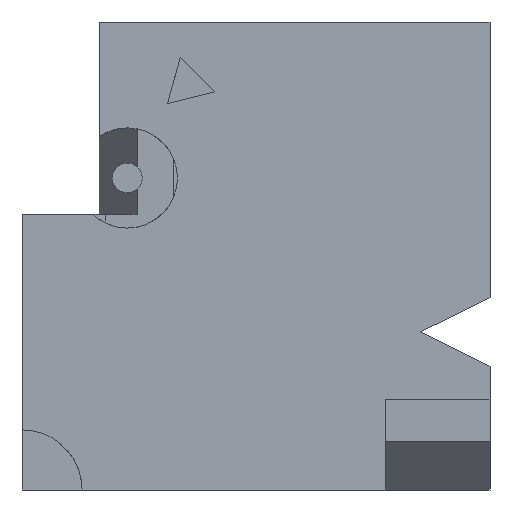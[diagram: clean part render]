
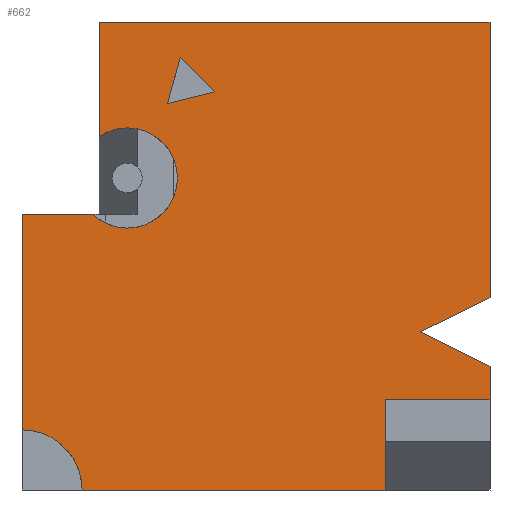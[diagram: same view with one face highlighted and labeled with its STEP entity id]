
A CAD part, front view. The second image highlights one B-rep face of the part: STEP entity #662.
In plain terms, the highlighted planar face has unit normal (0, -1, 0).
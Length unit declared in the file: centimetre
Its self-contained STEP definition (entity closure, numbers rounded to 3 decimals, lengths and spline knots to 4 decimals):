
#10 = EDGE_CURVE ( 'NONE', #913, #912, #1384, .T. ) ;
#16 = DIRECTION ( 'NONE',  ( 0., -1., 0. ) ) ;
#24 = VERTEX_POINT ( 'NONE', #792 ) ;
#25 = LINE ( 'NONE', #1326, #270 ) ;
#33 = DIRECTION ( 'NONE',  ( 0., 0., -1. ) ) ;
#64 = VERTEX_POINT ( 'NONE', #1274 ) ;
#67 = LINE ( 'NONE', #555, #806 ) ;
#70 = EDGE_CURVE ( 'NONE', #1307, #1272, #284, .T. ) ;
#75 = VECTOR ( 'NONE', #1331, 100. ) ;
#88 = ORIENTED_EDGE ( 'NONE', *, *, #1002, .F. ) ;
#92 = ORIENTED_EDGE ( 'NONE', *, *, #439, .F. ) ;
#98 = DIRECTION ( 'NONE',  ( -0.897, 0., 0.442 ) ) ;
#100 = ORIENTED_EDGE ( 'NONE', *, *, #1257, .F. ) ;
#108 = CARTESIAN_POINT ( 'NONE',  ( 151.3793, 0., 588.9629 ) ) ;
#122 = CARTESIAN_POINT ( 'NONE',  ( 1000., 0., 1000. ) ) ;
#141 = VECTOR ( 'NONE', #301, 100. ) ;
#146 = DIRECTION ( 'NONE',  ( -0.266, 0., -0.964 ) ) ;
#170 = EDGE_CURVE ( 'NONE', #294, #957, #1393, .T. ) ;
#176 = CARTESIAN_POINT ( 'NONE',  ( 225.0093, 0., 666.7254 ) ) ;
#187 = LINE ( 'NONE', #1119, #141 ) ;
#200 = CIRCLE ( 'NONE', #922, 107.0905 ) ;
#208 = CARTESIAN_POINT ( 'NONE',  ( 0., 0., 588.9629 ) ) ;
#221 = AXIS2_PLACEMENT_3D ( 'NONE', #1183, #16, #490 ) ;
#224 = DIRECTION ( 'NONE',  ( 0., 0., 1. ) ) ;
#247 = VECTOR ( 'NONE', #356, 100. ) ;
#250 = CIRCLE ( 'NONE', #1397, 107.0905 ) ;
#259 = CARTESIAN_POINT ( 'NONE',  ( 164.5453, 0., 588.9629 ) ) ;
#262 = CARTESIAN_POINT ( 'NONE',  ( 164.5453, 0., 588.9629 ) ) ;
#264 = CARTESIAN_POINT ( 'NONE',  ( 164.5453, 0., 1000. ) ) ;
#270 = VECTOR ( 'NONE', #279, 100. ) ;
#279 = DIRECTION ( 'NONE',  ( 0., 0., -1. ) ) ;
#284 = LINE ( 'NONE', #483, #1177 ) ;
#294 = VERTEX_POINT ( 'NONE', #1353 ) ;
#297 = DIRECTION ( 'NONE',  ( -0.707, 0., 0.707 ) ) ;
#301 = DIRECTION ( 'NONE',  ( 0.897, 0., 0.442 ) ) ;
#313 = CARTESIAN_POINT ( 'NONE',  ( 775.7692, 0., 192.9399 ) ) ;
#334 = CARTESIAN_POINT ( 'NONE',  ( 1000., 0., 1000. ) ) ;
#336 = DIRECTION ( 'NONE',  ( 0., -1., 0. ) ) ;
#352 = VERTEX_POINT ( 'NONE', #533 ) ;
#356 = DIRECTION ( 'NONE',  ( 0., 0., -1. ) ) ;
#372 = CIRCLE ( 'NONE', #570, 107.0905 ) ;
#395 = LINE ( 'NONE', #262, #1125 ) ;
#407 = CARTESIAN_POINT ( 'NONE',  ( 0., 0., 1000. ) ) ;
#431 = EDGE_CURVE ( 'NONE', #545, #24, #1400, .T. ) ;
#432 = ORIENTED_EDGE ( 'NONE', *, *, #1303, .T. ) ;
#437 = ORIENTED_EDGE ( 'NONE', *, *, #804, .T. ) ;
#439 = EDGE_CURVE ( 'NONE', #64, #537, #509, .T. ) ;
#462 = DIRECTION ( 'NONE',  ( 0., 0., -1. ) ) ;
#474 = CARTESIAN_POINT ( 'NONE',  ( 225.0093, 0., 666.7254 ) ) ;
#480 = CARTESIAN_POINT ( 'NONE',  ( 1000., 0., 410.8596 ) ) ;
#481 = ORIENTED_EDGE ( 'NONE', *, *, #431, .F. ) ;
#483 = CARTESIAN_POINT ( 'NONE',  ( 775.7692, 0., 0. ) ) ;
#490 = DIRECTION ( 'NONE',  ( 0., 0., -1. ) ) ;
#509 = LINE ( 'NONE', #259, #75 ) ;
#533 = CARTESIAN_POINT ( 'NONE',  ( 411.46, 0., 850.7536 ) ) ;
#535 = FACE_BOUND ( 'NONE', #1086, .T. ) ;
#537 = VERTEX_POINT ( 'NONE', #264 ) ;
#545 = VERTEX_POINT ( 'NONE', #1194 ) ;
#555 = CARTESIAN_POINT ( 'NONE',  ( 0., 0., 0. ) ) ;
#559 = EDGE_CURVE ( 'NONE', #1000, #912, #187, .T. ) ;
#570 = AXIS2_PLACEMENT_3D ( 'NONE', #474, #802, #1424 ) ;
#587 = ORIENTED_EDGE ( 'NONE', *, *, #787, .F. ) ;
#591 = ORIENTED_EDGE ( 'NONE', *, *, #1249, .T. ) ;
#608 = VECTOR ( 'NONE', #146, 100. ) ;
#613 = VERTEX_POINT ( 'NONE', #1344 ) ;
#618 = DIRECTION ( 'NONE',  ( 1., 0., 0. ) ) ;
#648 = DIRECTION ( 'NONE',  ( -1., 0., 0. ) ) ;
#662 = ADVANCED_FACE ( 'NONE', ( #535, #1237 ), #1004, .F. ) ;
#663 = CARTESIAN_POINT ( 'NONE',  ( 0., 0., 1000. ) ) ;
#681 = LINE ( 'NONE', #1155, #809 ) ;
#699 = CARTESIAN_POINT ( 'NONE',  ( 1000., 0., 1000. ) ) ;
#723 = CARTESIAN_POINT ( 'NONE',  ( 0., 0., 128.5732 ) ) ;
#724 = VERTEX_POINT ( 'NONE', #208 ) ;
#738 = DIRECTION ( 'NONE',  ( 1., 0., 0. ) ) ;
#754 = CARTESIAN_POINT ( 'NONE',  ( 775.7692, 0., 192.9399 ) ) ;
#759 = AXIS2_PLACEMENT_3D ( 'NONE', #663, #1043, #224 ) ;
#787 = EDGE_CURVE ( 'NONE', #1239, #1322, #200, .T. ) ;
#792 = CARTESIAN_POINT ( 'NONE',  ( 1000., 0., 192.9399 ) ) ;
#793 = DIRECTION ( 'NONE',  ( 1., 0., 0. ) ) ;
#794 = DIRECTION ( 'NONE',  ( 0., 0., -1. ) ) ;
#802 = DIRECTION ( 'NONE',  ( 0., -1., 0. ) ) ;
#804 = EDGE_CURVE ( 'NONE', #545, #1000, #681, .T. ) ;
#806 = VECTOR ( 'NONE', #793, 100. ) ;
#809 = VECTOR ( 'NONE', #98, 100. ) ;
#814 = ORIENTED_EDGE ( 'NONE', *, *, #170, .F. ) ;
#819 = CARTESIAN_POINT ( 'NONE',  ( 851.454, 0., 337.7293 ) ) ;
#835 = VECTOR ( 'NONE', #855, 100. ) ;
#840 = DIRECTION ( 'NONE',  ( 0., 0., -1. ) ) ;
#845 = LINE ( 'NONE', #1416, #835 ) ;
#855 = DIRECTION ( 'NONE',  ( 0.97, 0., 0.244 ) ) ;
#858 = EDGE_CURVE ( 'NONE', #1322, #64, #250, .T. ) ;
#859 = ORIENTED_EDGE ( 'NONE', *, *, #1221, .F. ) ;
#877 = EDGE_LOOP ( 'NONE', ( #92, #974, #587, #88, #100, #591, #814, #432, #1390, #1512, #481, #437, #1284, #1022, #859 ) ) ;
#886 = EDGE_CURVE ( 'NONE', #352, #1492, #1340, .T. ) ;
#896 = EDGE_CURVE ( 'NONE', #24, #1307, #1065, .T. ) ;
#910 = CARTESIAN_POINT ( 'NONE',  ( 225.0093, 0., 773.8159 ) ) ;
#912 = VERTEX_POINT ( 'NONE', #480 ) ;
#913 = VERTEX_POINT ( 'NONE', #122 ) ;
#922 = AXIS2_PLACEMENT_3D ( 'NONE', #1378, #336, #794 ) ;
#955 = ORIENTED_EDGE ( 'NONE', *, *, #1461, .F. ) ;
#957 = VERTEX_POINT ( 'NONE', #723 ) ;
#974 = ORIENTED_EDGE ( 'NONE', *, *, #858, .F. ) ;
#999 = ORIENTED_EDGE ( 'NONE', *, *, #1206, .F. ) ;
#1000 = VERTEX_POINT ( 'NONE', #819 ) ;
#1002 = EDGE_CURVE ( 'NONE', #1186, #1239, #372, .T. ) ;
#1004 = PLANE ( 'NONE',  #759 ) ;
#1022 = ORIENTED_EDGE ( 'NONE', *, *, #10, .F. ) ;
#1043 = DIRECTION ( 'NONE',  ( 0., 1., 0. ) ) ;
#1065 = LINE ( 'NONE', #754, #1300 ) ;
#1079 = ORIENTED_EDGE ( 'NONE', *, *, #886, .F. ) ;
#1086 = EDGE_LOOP ( 'NONE', ( #1079, #955, #999 ) ) ;
#1119 = CARTESIAN_POINT ( 'NONE',  ( 851.454, 0., 337.7293 ) ) ;
#1125 = VECTOR ( 'NONE', #738, 100. ) ;
#1155 = CARTESIAN_POINT ( 'NONE',  ( 1000., 0., 264.599 ) ) ;
#1158 = VECTOR ( 'NONE', #297, 100. ) ;
#1177 = VECTOR ( 'NONE', #840, 100. ) ;
#1183 = CARTESIAN_POINT ( 'NONE',  ( 0., 0., 0. ) ) ;
#1186 = VERTEX_POINT ( 'NONE', #108 ) ;
#1194 = CARTESIAN_POINT ( 'NONE',  ( 1000., 0., 264.599 ) ) ;
#1206 = EDGE_CURVE ( 'NONE', #1492, #613, #1341, .T. ) ;
#1218 = CARTESIAN_POINT ( 'NONE',  ( 225.0093, 0., 559.6349 ) ) ;
#1221 = EDGE_CURVE ( 'NONE', #537, #913, #1317, .T. ) ;
#1237 = FACE_OUTER_BOUND ( 'NONE', #877, .T. ) ;
#1239 = VERTEX_POINT ( 'NONE', #1218 ) ;
#1249 = EDGE_CURVE ( 'NONE', #724, #957, #25, .T. ) ;
#1257 = EDGE_CURVE ( 'NONE', #724, #1186, #395, .T. ) ;
#1272 = VERTEX_POINT ( 'NONE', #1333 ) ;
#1274 = CARTESIAN_POINT ( 'NONE',  ( 164.5453, 0., 755.1137 ) ) ;
#1284 = ORIENTED_EDGE ( 'NONE', *, *, #559, .T. ) ;
#1300 = VECTOR ( 'NONE', #648, 100. ) ;
#1303 = EDGE_CURVE ( 'NONE', #294, #1272, #67, .T. ) ;
#1307 = VERTEX_POINT ( 'NONE', #313 ) ;
#1317 = LINE ( 'NONE', #407, #1391 ) ;
#1322 = VERTEX_POINT ( 'NONE', #910 ) ;
#1323 = CARTESIAN_POINT ( 'NONE',  ( 338.1093, 0., 924.1044 ) ) ;
#1326 = CARTESIAN_POINT ( 'NONE',  ( 0., 0., 1000. ) ) ;
#1331 = DIRECTION ( 'NONE',  ( 0., 0., 1. ) ) ;
#1333 = CARTESIAN_POINT ( 'NONE',  ( 775.7692, 0., 0. ) ) ;
#1340 = LINE ( 'NONE', #1453, #1158 ) ;
#1341 = LINE ( 'NONE', #1450, #608 ) ;
#1344 = CARTESIAN_POINT ( 'NONE',  ( 310.8414, 0., 825.4715 ) ) ;
#1353 = CARTESIAN_POINT ( 'NONE',  ( 128.5732, 0., 0. ) ) ;
#1378 = CARTESIAN_POINT ( 'NONE',  ( 225.0093, 0., 666.7254 ) ) ;
#1384 = LINE ( 'NONE', #334, #1488 ) ;
#1390 = ORIENTED_EDGE ( 'NONE', *, *, #70, .F. ) ;
#1391 = VECTOR ( 'NONE', #618, 100. ) ;
#1393 = CIRCLE ( 'NONE', #221, 128.5732 ) ;
#1397 = AXIS2_PLACEMENT_3D ( 'NONE', #176, #1409, #33 ) ;
#1400 = LINE ( 'NONE', #699, #247 ) ;
#1409 = DIRECTION ( 'NONE',  ( 0., -1., 0. ) ) ;
#1416 = CARTESIAN_POINT ( 'NONE',  ( 310.8414, 0., 825.4715 ) ) ;
#1424 = DIRECTION ( 'NONE',  ( 0., 0., -1. ) ) ;
#1450 = CARTESIAN_POINT ( 'NONE',  ( 338.1093, 0., 924.1044 ) ) ;
#1453 = CARTESIAN_POINT ( 'NONE',  ( 411.46, 0., 850.7536 ) ) ;
#1461 = EDGE_CURVE ( 'NONE', #613, #352, #845, .T. ) ;
#1488 = VECTOR ( 'NONE', #462, 100. ) ;
#1492 = VERTEX_POINT ( 'NONE', #1323 ) ;
#1512 = ORIENTED_EDGE ( 'NONE', *, *, #896, .F. ) ;
